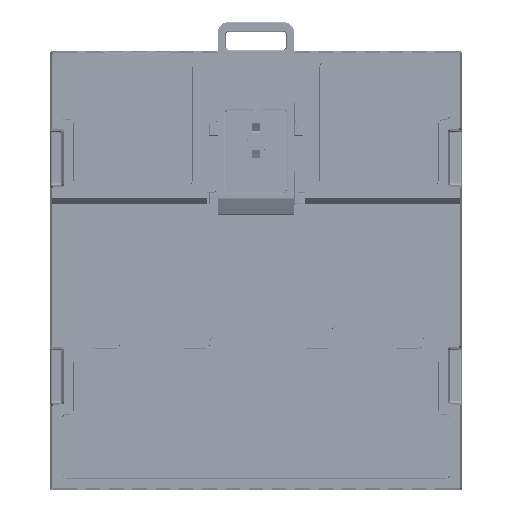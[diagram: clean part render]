
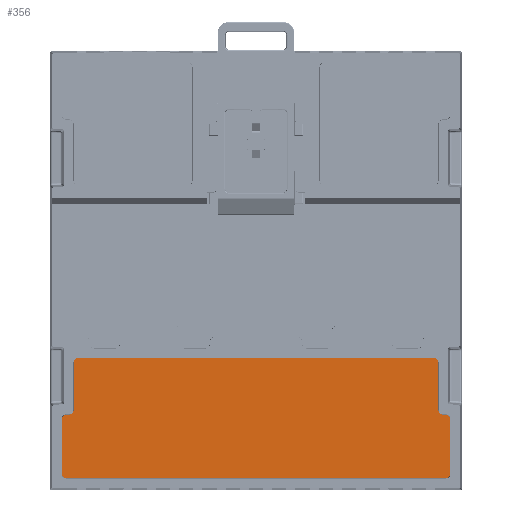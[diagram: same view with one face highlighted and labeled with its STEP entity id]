
A CAD part, front view. The second image highlights one B-rep face of the part: STEP entity #356.
In plain terms, the highlighted planar face has unit normal (0, -1, 0).
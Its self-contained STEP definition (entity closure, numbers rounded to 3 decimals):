
#356 = ADVANCED_FACE ( 'NONE', ( #331647 ), #127023, .F. ) ;
#1235 = VERTEX_POINT ( 'NONE', #98810 ) ;
#1696 = VECTOR ( 'NONE', #193606, 1000. ) ;
#3370 = DIRECTION ( 'NONE',  ( 1., 0., 0. ) ) ;
#10819 = VERTEX_POINT ( 'NONE', #449177 ) ;
#12640 = DIRECTION ( 'NONE',  ( 0., -1., 0. ) ) ;
#17808 = AXIS2_PLACEMENT_3D ( 'NONE', #361833, #12640, #217439 ) ;
#19303 = VECTOR ( 'NONE', #261858, 1000. ) ;
#28919 = CARTESIAN_POINT ( 'NONE',  ( 48.559, -27.99, -37.077 ) ) ;
#33859 = ORIENTED_EDGE ( 'NONE', *, *, #80041, .T. ) ;
#35024 = DIRECTION ( 'NONE',  ( 0., 0., 1. ) ) ;
#38424 = CARTESIAN_POINT ( 'NONE',  ( 48.559, -27.99, -24.45 ) ) ;
#39885 = ORIENTED_EDGE ( 'NONE', *, *, #90979, .T. ) ;
#41303 = CIRCLE ( 'NONE', #440224, 1.27 ) ;
#44058 = EDGE_CURVE ( 'NONE', #469641, #430094, #101323, .T. ) ;
#49822 = ORIENTED_EDGE ( 'NONE', *, *, #92152, .T. ) ;
#50483 = DIRECTION ( 'NONE',  ( 0., 0., 1. ) ) ;
#52717 = CIRCLE ( 'NONE', #468995, 1.13 ) ;
#56935 = VECTOR ( 'NONE', #3370, 1000. ) ;
#58070 = CARTESIAN_POINT ( 'NONE',  ( -50.572, -27.99, -38.346 ) ) ;
#59633 = EDGE_CURVE ( 'NONE', #10819, #482139, #467972, .T. ) ;
#73911 = CARTESIAN_POINT ( 'NONE',  ( -51.702, -27.99, -39.477 ) ) ;
#80041 = EDGE_CURVE ( 'NONE', #454669, #423763, #52717, .T. ) ;
#81923 = DIRECTION ( 'NONE',  ( 0., 0., 1. ) ) ;
#86740 = EDGE_CURVE ( 'NONE', #269267, #92223, #325062, .T. ) ;
#87895 = CARTESIAN_POINT ( 'NONE',  ( -48.559, -27.99, -37.077 ) ) ;
#88701 = EDGE_CURVE ( 'NONE', #373526, #439317, #41303, .T. ) ;
#90979 = EDGE_CURVE ( 'NONE', #430094, #1235, #236434, .T. ) ;
#91591 = EDGE_CURVE ( 'NONE', #1235, #269267, #493706, .T. ) ;
#92152 = EDGE_CURVE ( 'NONE', #423763, #373526, #278107, .T. ) ;
#92223 = VERTEX_POINT ( 'NONE', #501031 ) ;
#98810 = CARTESIAN_POINT ( 'NONE',  ( -51.702, -27.99, -54.177 ) ) ;
#101323 = CIRCLE ( 'NONE', #288022, 1.13 ) ;
#102117 = VECTOR ( 'NONE', #438333, 1000. ) ;
#107572 = CARTESIAN_POINT ( 'NONE',  ( 49.828, -27.99, -37.077 ) ) ;
#110242 = CARTESIAN_POINT ( 'NONE',  ( -49.828, -27.99, -38.346 ) ) ;
#114428 = ORIENTED_EDGE ( 'NONE', *, *, #366034, .T. ) ;
#127023 = PLANE ( 'NONE',  #481462 ) ;
#128153 = DIRECTION ( 'NONE',  ( -1., 0., 0. ) ) ;
#128180 = CARTESIAN_POINT ( 'NONE',  ( 51.702, -27.99, -54.177 ) ) ;
#142107 = AXIS2_PLACEMENT_3D ( 'NONE', #147709, #384182, #466738 ) ;
#146898 = AXIS2_PLACEMENT_3D ( 'NONE', #409395, #329695, #50483 ) ;
#146992 = ORIENTED_EDGE ( 'NONE', *, *, #239333, .T. ) ;
#147709 = CARTESIAN_POINT ( 'NONE',  ( 50.572, -27.99, -54.177 ) ) ;
#155285 = LINE ( 'NONE', #442324, #388806 ) ;
#161521 = ORIENTED_EDGE ( 'NONE', *, *, #367846, .T. ) ;
#166046 = EDGE_CURVE ( 'NONE', #506457, #294362, #204994, .T. ) ;
#179642 = AXIS2_PLACEMENT_3D ( 'NONE', #509095, #514261, #275030 ) ;
#193606 = DIRECTION ( 'NONE',  ( 0., 0., 1. ) ) ;
#194986 = CARTESIAN_POINT ( 'NONE',  ( -50.572, -27.99, -55.307 ) ) ;
#195098 = DIRECTION ( 'NONE',  ( 0., 0., -1. ) ) ;
#204994 = CIRCLE ( 'NONE', #400252, 1.27 ) ;
#214074 = DIRECTION ( 'NONE',  ( -1., 0., 0. ) ) ;
#217439 = DIRECTION ( 'NONE',  ( 0., 0., 1. ) ) ;
#223165 = ORIENTED_EDGE ( 'NONE', *, *, #166046, .T. ) ;
#224616 = CARTESIAN_POINT ( 'NONE',  ( -50.572, -27.99, -38.346 ) ) ;
#229046 = CARTESIAN_POINT ( 'NONE',  ( 48.559, -27.99, -37.077 ) ) ;
#236434 = LINE ( 'NONE', #390632, #246777 ) ;
#238227 = CARTESIAN_POINT ( 'NONE',  ( 49.828, -27.99, -38.346 ) ) ;
#239333 = EDGE_CURVE ( 'NONE', #377995, #454669, #243980, .T. ) ;
#240149 = CARTESIAN_POINT ( 'NONE',  ( 49.828, -27.99, -38.346 ) ) ;
#243980 = LINE ( 'NONE', #275947, #1696 ) ;
#246777 = VECTOR ( 'NONE', #276325, 1000. ) ;
#249134 = CARTESIAN_POINT ( 'NONE',  ( 50.572, -27.99, -39.477 ) ) ;
#250353 = CARTESIAN_POINT ( 'NONE',  ( 47.428, -27.99, -23.32 ) ) ;
#257260 = CIRCLE ( 'NONE', #146898, 1.13 ) ;
#258218 = LINE ( 'NONE', #250353, #318397 ) ;
#261858 = DIRECTION ( 'NONE',  ( -1., 0., 0. ) ) ;
#267726 = VERTEX_POINT ( 'NONE', #485129 ) ;
#269267 = VERTEX_POINT ( 'NONE', #414314 ) ;
#269747 = DIRECTION ( 'NONE',  ( 0., 1., 0. ) ) ;
#270655 = VERTEX_POINT ( 'NONE', #38424 ) ;
#275030 = DIRECTION ( 'NONE',  ( 0., 0., 1. ) ) ;
#275947 = CARTESIAN_POINT ( 'NONE',  ( 51.702, -27.99, -54.177 ) ) ;
#276325 = DIRECTION ( 'NONE',  ( 0., 0., -1. ) ) ;
#278107 = LINE ( 'NONE', #238227, #401072 ) ;
#283888 = CARTESIAN_POINT ( 'NONE',  ( -50.572, -27.99, -39.477 ) ) ;
#287211 = ORIENTED_EDGE ( 'NONE', *, *, #91591, .T. ) ;
#288022 = AXIS2_PLACEMENT_3D ( 'NONE', #306378, #371769, #35024 ) ;
#294362 = VERTEX_POINT ( 'NONE', #110242 ) ;
#295424 = CARTESIAN_POINT ( 'NONE',  ( 51.702, -27.99, -39.477 ) ) ;
#306378 = CARTESIAN_POINT ( 'NONE',  ( -50.572, -27.99, -39.477 ) ) ;
#317170 = ORIENTED_EDGE ( 'NONE', *, *, #502885, .T. ) ;
#318397 = VECTOR ( 'NONE', #128153, 1000. ) ;
#325062 = LINE ( 'NONE', #194986, #56935 ) ;
#329695 = DIRECTION ( 'NONE',  ( 0., -1., 0. ) ) ;
#331647 = FACE_OUTER_BOUND ( 'NONE', #486665, .T. ) ;
#337422 = ORIENTED_EDGE ( 'NONE', *, *, #44058, .T. ) ;
#355738 = CARTESIAN_POINT ( 'NONE',  ( -49.828, -27.99, -37.077 ) ) ;
#359952 = ORIENTED_EDGE ( 'NONE', *, *, #422016, .T. ) ;
#360986 = DIRECTION ( 'NONE',  ( 0., 1., 0. ) ) ;
#361833 = CARTESIAN_POINT ( 'NONE',  ( -47.428, -27.99, -24.45 ) ) ;
#363615 = DIRECTION ( 'NONE',  ( 0., 0., 1. ) ) ;
#366034 = EDGE_CURVE ( 'NONE', #267726, #10819, #258218, .T. ) ;
#367846 = EDGE_CURVE ( 'NONE', #92223, #377995, #490309, .T. ) ;
#370898 = ORIENTED_EDGE ( 'NONE', *, *, #59633, .T. ) ;
#371353 = DIRECTION ( 'NONE',  ( 0., -1., 0. ) ) ;
#371769 = DIRECTION ( 'NONE',  ( 0., -1., 0. ) ) ;
#373526 = VERTEX_POINT ( 'NONE', #240149 ) ;
#377995 = VERTEX_POINT ( 'NONE', #128180 ) ;
#384182 = DIRECTION ( 'NONE',  ( 0., -1., 0. ) ) ;
#388806 = VECTOR ( 'NONE', #195098, 1000. ) ;
#390632 = CARTESIAN_POINT ( 'NONE',  ( -51.702, -27.99, -54.177 ) ) ;
#400252 = AXIS2_PLACEMENT_3D ( 'NONE', #355738, #360986, #363615 ) ;
#401072 = VECTOR ( 'NONE', #214074, 1000. ) ;
#409395 = CARTESIAN_POINT ( 'NONE',  ( 47.428, -27.99, -24.45 ) ) ;
#414314 = CARTESIAN_POINT ( 'NONE',  ( -50.572, -27.99, -55.307 ) ) ;
#422016 = EDGE_CURVE ( 'NONE', #294362, #469641, #498457, .T. ) ;
#423763 = VERTEX_POINT ( 'NONE', #441557 ) ;
#430094 = VERTEX_POINT ( 'NONE', #73911 ) ;
#431911 = DIRECTION ( 'NONE',  ( 0., 0., 1. ) ) ;
#434543 = EDGE_CURVE ( 'NONE', #482139, #506457, #155285, .T. ) ;
#438333 = DIRECTION ( 'NONE',  ( 0., 0., 1. ) ) ;
#439317 = VERTEX_POINT ( 'NONE', #229046 ) ;
#440224 = AXIS2_PLACEMENT_3D ( 'NONE', #107572, #269747, #431911 ) ;
#441557 = CARTESIAN_POINT ( 'NONE',  ( 50.572, -27.99, -38.346 ) ) ;
#442324 = CARTESIAN_POINT ( 'NONE',  ( -48.559, -27.99, -24.45 ) ) ;
#443490 = DIRECTION ( 'NONE',  ( 0., 1., 0. ) ) ;
#449177 = CARTESIAN_POINT ( 'NONE',  ( -47.428, -27.99, -23.32 ) ) ;
#451524 = ORIENTED_EDGE ( 'NONE', *, *, #86740, .T. ) ;
#454669 = VERTEX_POINT ( 'NONE', #295424 ) ;
#466738 = DIRECTION ( 'NONE',  ( 0., 0., 1. ) ) ;
#467972 = CIRCLE ( 'NONE', #17808, 1.13 ) ;
#468995 = AXIS2_PLACEMENT_3D ( 'NONE', #249134, #371353, #496181 ) ;
#469641 = VERTEX_POINT ( 'NONE', #58070 ) ;
#472440 = ORIENTED_EDGE ( 'NONE', *, *, #505478, .T. ) ;
#477316 = ORIENTED_EDGE ( 'NONE', *, *, #434543, .T. ) ;
#481462 = AXIS2_PLACEMENT_3D ( 'NONE', #283888, #443490, #81923 ) ;
#482139 = VERTEX_POINT ( 'NONE', #486572 ) ;
#485129 = CARTESIAN_POINT ( 'NONE',  ( 47.428, -27.99, -23.32 ) ) ;
#486572 = CARTESIAN_POINT ( 'NONE',  ( -48.559, -27.99, -24.45 ) ) ;
#486665 = EDGE_LOOP ( 'NONE', ( #337422, #39885, #287211, #451524, #161521, #146992, #33859, #49822, #514089, #317170, #472440, #114428, #370898, #477316, #223165, #359952 ) ) ;
#490309 = CIRCLE ( 'NONE', #142107, 1.13 ) ;
#493706 = CIRCLE ( 'NONE', #179642, 1.13 ) ;
#496181 = DIRECTION ( 'NONE',  ( 0., 0., 1. ) ) ;
#498457 = LINE ( 'NONE', #224616, #19303 ) ;
#501031 = CARTESIAN_POINT ( 'NONE',  ( 50.572, -27.99, -55.307 ) ) ;
#502885 = EDGE_CURVE ( 'NONE', #439317, #270655, #515335, .T. ) ;
#505478 = EDGE_CURVE ( 'NONE', #270655, #267726, #257260, .T. ) ;
#506457 = VERTEX_POINT ( 'NONE', #87895 ) ;
#509095 = CARTESIAN_POINT ( 'NONE',  ( -50.572, -27.99, -54.177 ) ) ;
#514089 = ORIENTED_EDGE ( 'NONE', *, *, #88701, .T. ) ;
#514261 = DIRECTION ( 'NONE',  ( 0., -1., 0. ) ) ;
#515335 = LINE ( 'NONE', #28919, #102117 ) ;
